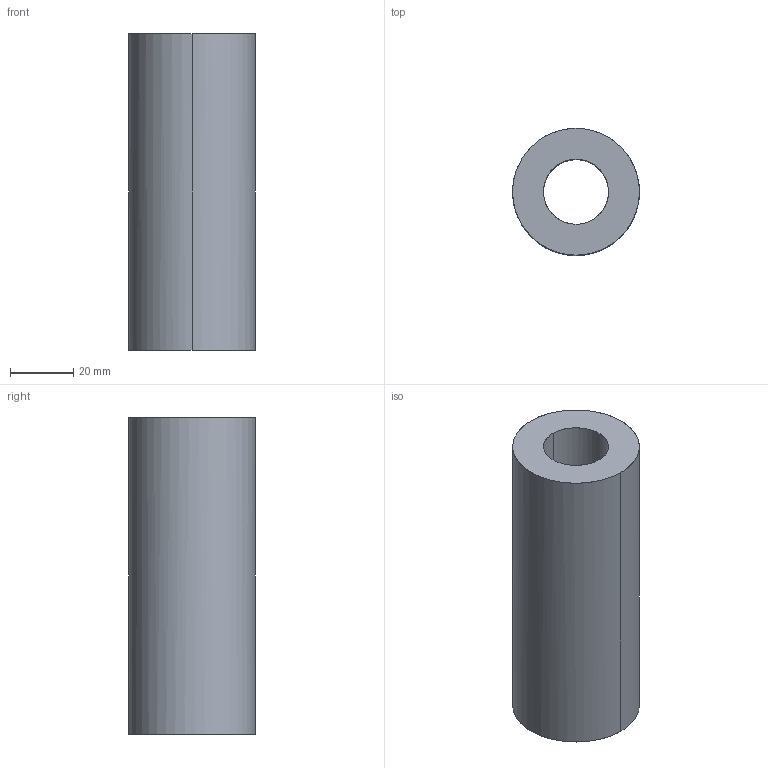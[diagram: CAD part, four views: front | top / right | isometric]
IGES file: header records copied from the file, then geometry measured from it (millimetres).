
Global section: file name: E:\UnigraphicsGraphicData\MISUMI_PRESS-PARTS\IGES\3d_swx40-100_00772_r00.igs; native system: NX V5.0; preprocessor: UGS NX IGES V5.0; author: MISUMI; date: 20110105.163303; units: millimetre
Bounding box: 40 x 40 x 100 mm (x, y, z)
Surface area: 20858.1 mm2 (no closed solid volume)
Topology: 0 solids, 0 shells, 6 faces, 64 edges, 64 vertices
Faces by surface type: bspline 6
